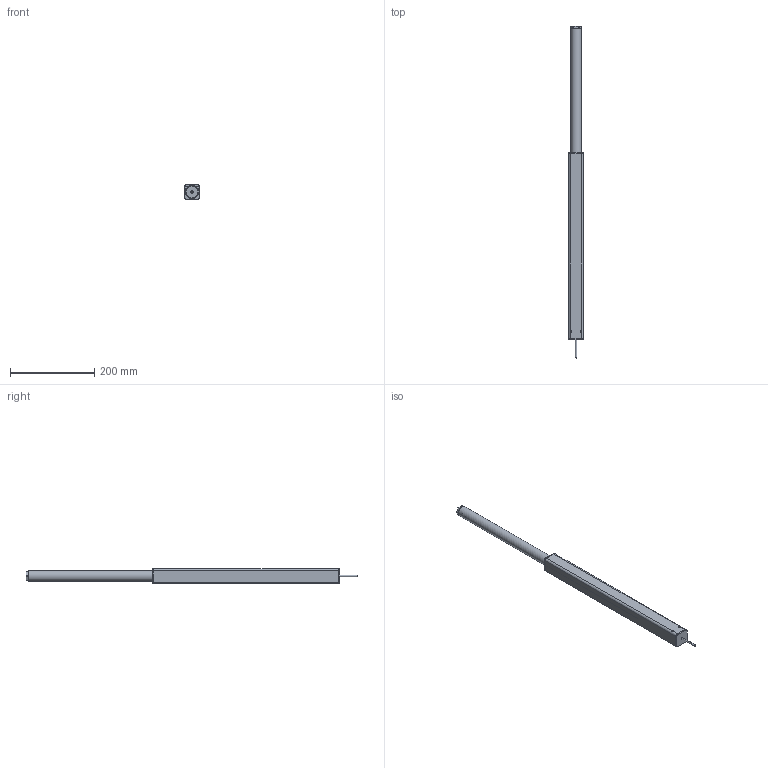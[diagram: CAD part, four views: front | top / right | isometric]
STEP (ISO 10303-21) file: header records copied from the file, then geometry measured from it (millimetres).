
FILE_DESCRIPTION(/* description */ ('Unknown'),/* implementation_level */ '2;1');
FILE_NAME(/* name */ '106.00003 Lineareinheit LA 1430_ausgefahren',/* time_stamp */ '2017-08-23T16:39:34+02:00',/* author */ ('Unknown'),/* organization */ ('Unknown'),/* preprocessor_version */ 'ST-DEVELOPER v16.7',/* originating_system */ 'DEX',/* authorisation */ $);
FILE_SCHEMA (('AUTOMOTIVE_DESIGN {1 0 10303 214 3 1 1}'));
Products named in the file (9): 106.00003; 119.00003; 142.00014; 115.00001; 142.00011; 122.00018; 125.00051; 123.00003; 113.00002_70mm
Assembly tree (9 placements, depth 2):
  106.00003
    119.00003
    142.00014  x2
    115.00001
    142.00011
    122.00018
    125.00051
    123.00003
    113.00002_70mm
Bounding box: 35 x 788.5 x 35 mm (x, y, z)
Volume: 307049.6 mm3; surface area: 208144.9 mm2
Topology: 8 solids, 8 shells, 776 faces, 1818 edges, 1082 vertices
Faces by surface type: cylinder 273, bspline 224, plane 204, cone 36, torus 27, sphere 12
Full cylindrical faces by diameter (mm): 2.2 x1, 4 x7, 4.134 x4, 5 x1, 6.647 x1, 8.376 x1, 17.3 x1, 19 x1, 20.8 x3, 21 x1, 25 x1, 28.3 x1, 30.4 x1, 30.63 x1
Entity records: 74513 total; most frequent: CARTESIAN_POINT 58862, ORIENTED_EDGE 3422, DIRECTION 2541, EDGE_CURVE 1711, VERTEX_POINT 1037, AXIS2_PLACEMENT_3D 983, EDGE_LOOP 858, FACE_BOUND 858
